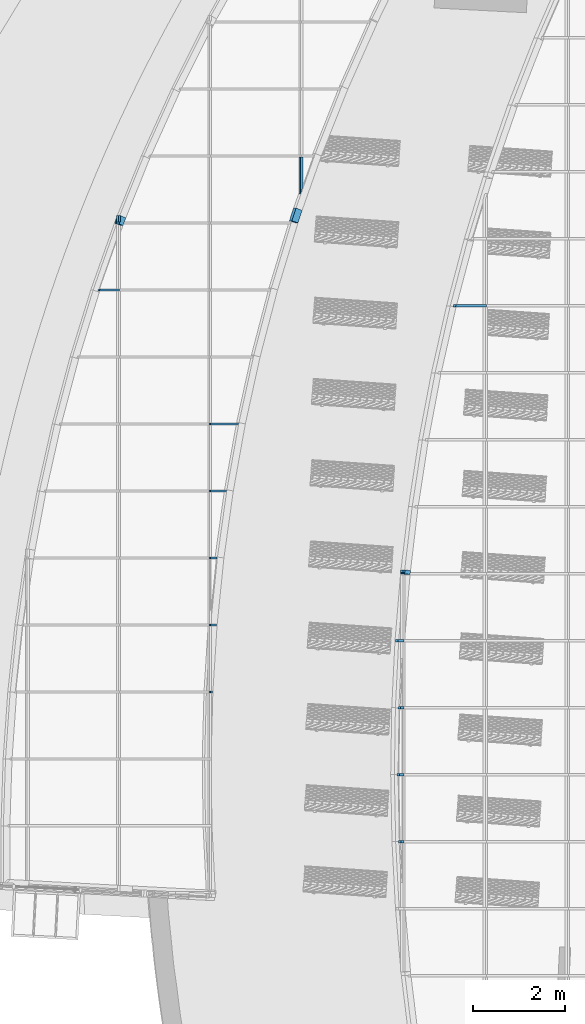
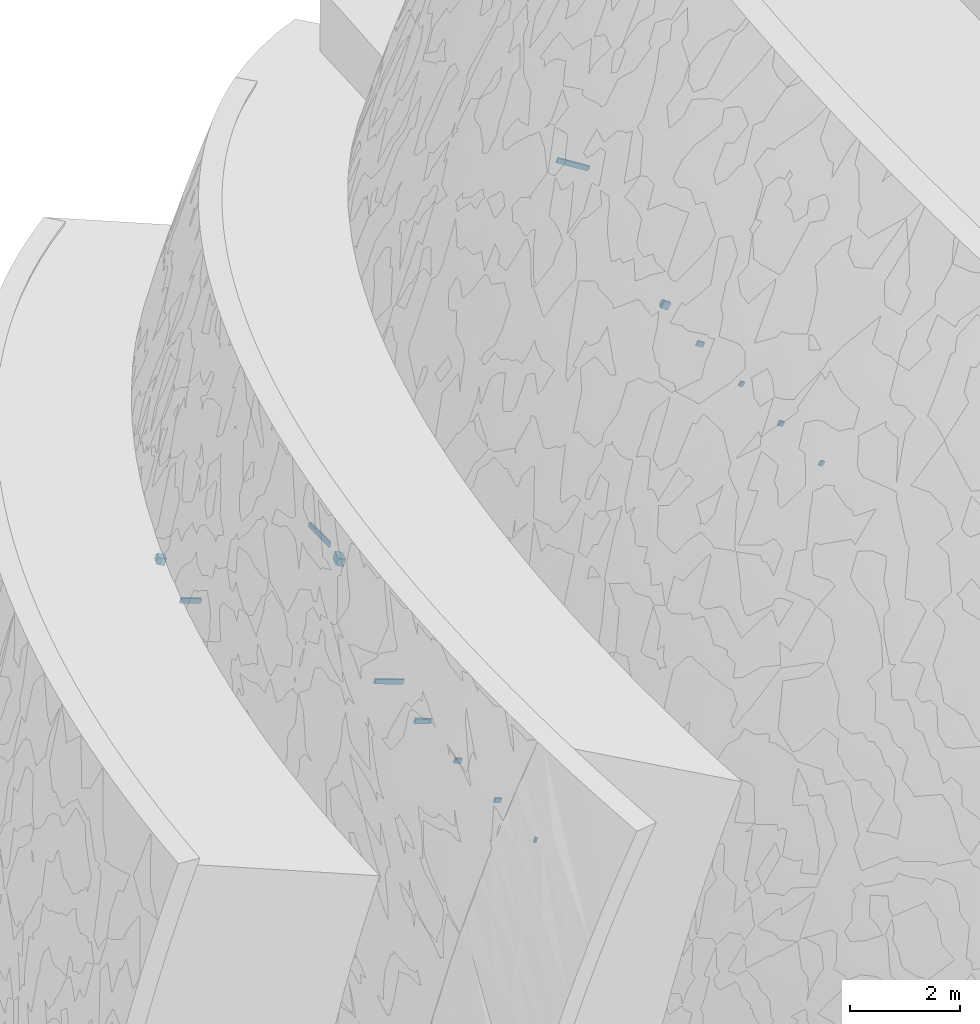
# One storey, part 28 of 82: 18 members, 2 elements without a shape of their own.
"""IFC2X3 building model written with IfcOpenShell, lengths in millimetres."""

from ifc_helpers import new_model, entity, si_unit, converted_unit, derived_unit, direction, frame, frame_2d, origin, origin_2d_with_axis, place, context, subcontext, project, spatial, polyline, rectangle, extrude, clip, halfspace, bounded_halfspace, source, transform, mapped, material, type_object, type_shapes, element, aggregate, save


model = new_model("IFC2X3")

# Units and contexts
model_context = context("Model", 3, precision=0.01, world=origin(), true_north=direction((6.12303176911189e-17, 1.0)))
body_context = subcontext(model_context, "Body", "Model", "MODEL_VIEW")
ifc_project = project(units=[si_unit("LENGTHUNIT", "METRE", prefix="MILLI"), si_unit("AREAUNIT", "SQUARE_METRE"), si_unit("VOLUMEUNIT", "CUBIC_METRE"), converted_unit("PLANEANGLEUNIT", "DEGREE", entity("IfcRatioMeasure", 0.0174532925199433), si_unit("PLANEANGLEUNIT", "RADIAN"), dimensions=[0, 0, 0, 0, 0, 0, 0]), si_unit("MASSUNIT", "GRAM", prefix="KILO"), derived_unit("MASSDENSITYUNIT", [(si_unit("MASSUNIT", "GRAM", prefix="KILO"), 1), (si_unit("LENGTHUNIT", "METRE"), -3)]), si_unit("TIMEUNIT", "SECOND"), si_unit("FREQUENCYUNIT", "HERTZ"), si_unit("THERMODYNAMICTEMPERATUREUNIT", "DEGREE_CELSIUS"), derived_unit("THERMALTRANSMITTANCEUNIT", [(si_unit("MASSUNIT", "GRAM", prefix="KILO"), 1), (si_unit("THERMODYNAMICTEMPERATUREUNIT", "KELVIN"), -1), (si_unit("TIMEUNIT", "SECOND"), -3)]), derived_unit("VOLUMETRICFLOWRATEUNIT", [(si_unit("LENGTHUNIT", "METRE"), 3), (si_unit("TIMEUNIT", "SECOND"), -1)]), si_unit("ELECTRICCURRENTUNIT", "AMPERE"), si_unit("ELECTRICVOLTAGEUNIT", "VOLT"), si_unit("POWERUNIT", "WATT"), si_unit("FORCEUNIT", "NEWTON", prefix="KILO"), si_unit("ILLUMINANCEUNIT", "LUX"), si_unit("LUMINOUSFLUXUNIT", "LUMEN"), si_unit("LUMINOUSINTENSITYUNIT", "CANDELA"), derived_unit("USERDEFINED", [(si_unit("MASSUNIT", "GRAM", prefix="KILO"), -1), (si_unit("LENGTHUNIT", "METRE"), -2), (si_unit("TIMEUNIT", "SECOND"), 3), (si_unit("LUMINOUSFLUXUNIT", "LUMEN"), 1)]), derived_unit("LINEARVELOCITYUNIT", [(si_unit("LENGTHUNIT", "METRE"), 1), (si_unit("TIMEUNIT", "SECOND"), -1)]), si_unit("PRESSUREUNIT", "PASCAL"), derived_unit("USERDEFINED", [(si_unit("LENGTHUNIT", "METRE"), -2), (si_unit("MASSUNIT", "GRAM", prefix="KILO"), 1), (si_unit("TIMEUNIT", "SECOND"), -2)])], contexts=[model_context])

# Site, building, storey
site_placement = place(None, origin())
site = spatial("IfcSite", under=ifc_project, at=site_placement, Name="表面", CompositionType="ELEMENT")
building_placement = place(site_placement, origin())
building = spatial("IfcBuilding", under=site, at=building_placement, CompositionType="ELEMENT")
storey_placement = place(building_placement, origin())
storey = spatial("IfcBuildingStorey", under=building, at=storey_placement, Name="1F", CompositionType="ELEMENT", Elevation=0.0)

# Curtain wall, members
curtain_wall_type = type_object("IfcCurtainWallType", Name="幕墙系统:1450 x 2100mm", PredefinedType="NOTDEFINED")
curtain_wall_1_placement = place(storey_placement, origin())
curtain_wall_1 = element("IfcCurtainWall", 1, at=curtain_wall_1_placement, inside=storey, type_object=curtain_wall_type, Name="幕墙系统:1450 x 2100mm", ObjectType="幕墙系统:1450 x 2100mm")
ifc_material_1 = material(Name="木质 - 木材")
member_type_1 = type_object("IfcMemberType", Name="200 x 150mm", PredefinedType="MEMBER")
shared_shape_1 = source(origin(), body_context, "Body", "SweptSolid", [
    extrude(rectangle(XDim=150.0, YDim=150.0, at=origin_2d_with_axis()), frame((-75.0, 0.0, -85.9248183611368), z_axis=(0.0, 0.0, 1.0), x_axis=(0.0, -1.0, 0.0)), (0.0, 0.0, 1.0), 85.9248183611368),
])
type_shapes(member_type_1, [shared_shape_1])
placement = place(building_placement, frame((0.0, 0.0, 9000.0)))
member_1_placement = place(placement, frame((-30604.5056245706, -13303.588327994, 9820.01452635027), z_axis=(0.10087101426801, 0.992900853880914, -0.0630312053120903), x_axis=(-0.842027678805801, 0.118944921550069, 0.526157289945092)))
member_1 = element("IfcMember", 2, at=member_1_placement, type_object=member_type_1, material=ifc_material_1, Name="矩形竖梃:200 x 150mm", ObjectType="200 x 150mm", context=body_context, shape_type="MappedRepresentation", body=[
    mapped(shared_shape_1, transform((0.0, 0.0, 0.0), scale=1.0)),
])
ifc_material_2 = material(Name="金属 - 铝")
member_type_2 = type_object("IfcMemberType", Name="50 x 100mm", PredefinedType="MEMBER")
shared_shape_2 = source(origin(), body_context, "Body", "SweptSolid", [
    extrude(rectangle(XDim=100.0, YDim=50.0, at=origin_2d_with_axis()), frame((0.0, 0.0, -60.3148255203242), z_axis=(0.0, 0.0, 1.0), x_axis=(0.0, -1.0, 0.0)), (0.0, 0.0, 1.0), 60.3148255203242),
])
type_shapes(member_type_2, [shared_shape_2])
member_2_placement = place(placement, frame((-30604.5056245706, -13303.588327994, 9820.01452635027), z_axis=(0.0, 1.0, 0.0), x_axis=(-0.848048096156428, 0.0, 0.529919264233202)))
member_2 = element("IfcMember", 3, at=member_2_placement, type_object=member_type_2, material=ifc_material_2, Name="矩形竖梃:50 x 100mm", ObjectType="50 x 100mm", context=body_context, shape_type="MappedRepresentation", body=[
    mapped(shared_shape_2, transform((0.0, 0.0, 0.0), scale=1.0)),
])
member_type_3 = type_object("IfcMemberType", Name="50 x 100mm", PredefinedType="MEMBER")
shared_shape_3 = source(origin(), body_context, "Body", "Clipping", [
    clip(extrude(rectangle(XDim=100.0, YDim=50.0, at=origin_2d_with_axis()), frame((0.0, 0.0, -935.96048896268), z_axis=(0.0, 0.0, 1.0), x_axis=(0.0, -1.0, 0.0)), (0.0, 0.0, 1.0), 786.629228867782), halfspace(frame((-1405.324131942, 75.0, -595.590746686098), z_axis=(-0.29783912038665, 0.0, 0.954616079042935), x_axis=(0.954616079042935, 0.0, 0.29783912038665)), False)),
])
type_shapes(member_type_3, [shared_shape_3])
member_3_placement = place(placement, frame((-29617.3441333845, -7588.90315351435, 9203.16756512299), z_axis=(-0.848048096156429, 0.0, 0.529919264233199), x_axis=(0.0, -1.0, 0.0)))
member_3 = element("IfcMember", 4, at=member_3_placement, type_object=member_type_3, material=ifc_material_2, Name="矩形竖梃:50 x 100mm", ObjectType="50 x 100mm", context=body_context, shape_type="MappedRepresentation", body=[
    mapped(shared_shape_3, transform((0.0, 0.0, 0.0), scale=1.0)),
])
member_type_4 = type_object("IfcMemberType", Name="50 x 100mm", PredefinedType="MEMBER")
shared_shape_4 = source(origin(), body_context, "Body", "SweptSolid", [
    extrude(rectangle(XDim=100.0, YDim=50.0, at=origin_2d_with_axis()), frame((0.0, 0.0, -152.69416248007), z_axis=(0.0, 0.0, 1.0), x_axis=(0.0, -1.0, 0.0)), (0.0, 0.0, 1.0), 152.69416248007),
])
type_shapes(member_type_4, [shared_shape_4])
member_4_placement = place(placement, frame((-30733.997618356, -14838.9031535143, 9900.93010458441), z_axis=(-0.848048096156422, 0.0, 0.529919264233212), x_axis=(0.0, -1.0, 0.0)))
member_4 = element("IfcMember", 5, at=member_4_placement, type_object=member_type_4, material=ifc_material_2, Name="矩形竖梃:50 x 100mm", ObjectType="50 x 100mm", context=body_context, shape_type="MappedRepresentation", body=[
    mapped(shared_shape_4, transform((0.0, 0.0, 0.0), scale=1.0)),
])
member_type_5 = type_object("IfcMemberType", Name="50 x 100mm", PredefinedType="MEMBER")
shared_shape_5 = source(origin(), body_context, "Body", "Clipping", [
    clip(clip(extrude(rectangle(XDim=100.0, YDim=50.0, at=origin_2d_with_axis()), frame((0.0, 0.0, -236.611637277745), z_axis=(0.0, 0.0, 1.0), x_axis=(0.0, -1.0, 0.0)), (0.0, 0.0, 1.0), 87.0322261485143), bounded_halfspace(frame((-1441.33338382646, 75.0, -233.666898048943), z_axis=(-0.0577774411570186, 0.0, 0.998329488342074), x_axis=(0.998329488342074, 0.0, 0.0577774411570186)), False, frame((0.0, 0.0, -236.611637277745), z_axis=(0.0, 0.0, 1.0), x_axis=(0.0, -1.0, 0.0)), polyline([(-50.0, 5.66818631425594), (-50.0, -25.0), (50.0, -25.0), (50.0, 5.66818631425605), (-50.0, 5.66818631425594)]))), bounded_halfspace(frame((5.66818631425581, 75.0, -149.922954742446), z_axis=(-0.0177680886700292, 0.0, 0.999842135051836), x_axis=(0.999842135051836, 0.0, 0.0177680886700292)), False, frame((0.0, 0.0, -236.611637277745), z_axis=(0.0, 0.0, 1.0), x_axis=(0.0, -1.0, 0.0)), polyline([(-50.0, 25.0), (-50.0, 5.66818631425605), (50.0, 5.66818631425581), (50.0, 25.0), (-50.0, 25.0)]))),
])
type_shapes(member_type_5, [shared_shape_5])
member_5_placement = place(placement, frame((-30805.1636730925, -16288.9031535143, 9945.39959108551), z_axis=(-0.848048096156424, 0.0, 0.529919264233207), x_axis=(0.0, -1.0, 0.0)))
member_5 = element("IfcMember", 6, at=member_5_placement, type_object=member_type_5, material=ifc_material_2, Name="矩形竖梃:50 x 100mm", ObjectType="50 x 100mm", context=body_context, shape_type="MappedRepresentation", body=[
    mapped(shared_shape_5, transform((0.0, 0.0, 0.0), scale=1.0)),
])
member_type_6 = type_object("IfcMemberType", Name="50 x 100mm", PredefinedType="MEMBER")
shared_shape_6 = source(origin(), body_context, "Body", "Clipping", [
    clip(clip(extrude(rectangle(XDim=100.0, YDim=50.0, at=origin_2d_with_axis()), frame((0.0, 0.0, -262.379433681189), z_axis=(0.0, 0.0, 1.0), x_axis=(0.0, -1.0, 0.0)), (0.0, 0.0, 1.0), 112.349785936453), bounded_halfspace(frame((-0.335619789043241, 75.0, -150.029647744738), z_axis=(0.0222412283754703, 0.0, 0.999752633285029), x_axis=(0.999752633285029, 0.0, -0.0222412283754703)), False, frame((0.0, 0.0, -262.379433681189), z_axis=(0.0, 0.0, 1.0), x_axis=(0.0, -1.0, 0.0)), polyline([(-50.0, 25.0), (-50.0, -0.335619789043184), (50.0, -0.335619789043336), (50.0, 25.0), (-50.0, 25.0)]))), bounded_halfspace(frame((-1447.3347866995, 75.0, -175.744116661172), z_axis=(-0.0177680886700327, 0.0, 0.999842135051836), x_axis=(0.999842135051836, 0.0, 0.0177680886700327)), False, frame((0.0, 0.0, -262.379433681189), z_axis=(0.0, 0.0, 1.0), x_axis=(0.0, -1.0, 0.0)), polyline([(-50.0, -0.335619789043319), (-50.0, -25.0), (50.0, -25.0), (50.0, -0.335619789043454), (-50.0, -0.335619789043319)]))),
])
type_shapes(member_type_6, [shared_shape_6])
member_6_placement = place(placement, frame((-30827.0160037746, -17738.9031535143, 9959.05444279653), z_axis=(-0.848048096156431, 0.0, 0.529919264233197), x_axis=(0.0, -1.0, 0.0)))
member_6 = element("IfcMember", 7, at=member_6_placement, type_object=member_type_6, material=ifc_material_2, Name="矩形竖梃:50 x 100mm", ObjectType="50 x 100mm", context=body_context, shape_type="MappedRepresentation", body=[
    mapped(shared_shape_6, transform((0.0, 0.0, 0.0), scale=1.0)),
])
member_type_7 = type_object("IfcMemberType", Name="50 x 100mm", PredefinedType="MEMBER")
shared_shape_7 = source(origin(), body_context, "Body", "Clipping", [
    clip(clip(extrude(rectangle(XDim=100.0, YDim=50.0, at=origin_2d_with_axis()), frame((0.0, 0.0, -230.12167304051), z_axis=(0.0, 0.0, 1.0), x_axis=(0.0, -1.0, 0.0)), (0.0, 0.0, 1.0), 80.6407271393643), bounded_halfspace(frame((-6.33942767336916, 75.0, -149.896082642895), z_axis=(0.0622505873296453, 0.0, 0.998060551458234), x_axis=(0.998060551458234, 0.0, -0.0622505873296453)), False, frame((0.0, 0.0, -230.12167304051), z_axis=(0.0, 0.0, 1.0), x_axis=(0.0, -1.0, 0.0)), polyline([(-50.0, 25.0), (-50.0, -6.33942767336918), (50.0, -6.33942767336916), (50.0, 25.0), (-50.0, 25.0)]))), bounded_halfspace(frame((-1453.33618425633, 75.0, -117.705134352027), z_axis=(0.0222412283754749, 0.0, 0.999752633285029), x_axis=(0.999752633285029, 0.0, -0.0222412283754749)), False, frame((0.0, 0.0, -230.12167304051), z_axis=(0.0, 0.0, 1.0), x_axis=(0.0, -1.0, 0.0)), polyline([(-50.0, -6.33942767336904), (-50.0, -25.0), (50.0, -25.0), (50.0, -6.33942767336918), (-50.0, -6.33942767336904)]))),
])
type_shapes(member_type_7, [shared_shape_7])
member_7_placement = place(placement, frame((-30799.659871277, -19188.9031535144, 9941.96043401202), z_axis=(-0.848048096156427, 0.0, 0.529919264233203), x_axis=(0.0, -1.0, 0.0)))
member_7 = element("IfcMember", 8, at=member_7_placement, type_object=member_type_7, material=ifc_material_2, Name="矩形竖梃:50 x 100mm", ObjectType="50 x 100mm", context=body_context, shape_type="MappedRepresentation", body=[
    mapped(shared_shape_7, transform((0.0, 0.0, 0.0), scale=1.0)),
])
aggregate(curtain_wall_1, [member_1, member_2, member_3, member_4, member_5, member_6, member_7])

curtain_wall_2_placement = place(storey_placement, origin())
curtain_wall_2 = element("IfcCurtainWall", 9, at=curtain_wall_2_placement, inside=storey, type_object=curtain_wall_type, Name="幕墙系统:1450 x 2100mm", ObjectType="幕墙系统:1450 x 2100mm")
member_type_8 = type_object("IfcMemberType", Name="200 x 150mm", PredefinedType="MEMBER")
shared_shape_8 = source(origin(), body_context, "Body", "Clipping", [
    clip(clip(extrude(rectangle(XDim=150.0, YDim=150.0, at=origin_2d_with_axis()), frame((-75.0, 0.0, -289.696941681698), z_axis=(0.0, 0.0, 1.0), x_axis=(0.0, -1.0, 0.0)), (0.0, 0.0, 1.0), 291.576476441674), halfspace(frame((0.0, 304.8, -288.092724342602), z_axis=(0.0106941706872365, 0.0, -0.999942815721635), x_axis=(0.999942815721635, 0.0, 0.0106941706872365)), False)), halfspace(frame((0.0, 304.799999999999, 0.0), z_axis=(0.0125292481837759, 0.0, 0.999921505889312), x_axis=(0.999921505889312, 0.0, -0.0125292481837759)), False)),
])
type_shapes(member_type_8, [shared_shape_8])
member_8_placement = place(placement, frame((-32899.731961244, -5796.8767198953, 294.791419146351), z_axis=(-0.311759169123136, -0.9433612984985, 0.113471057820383), x_axis=(0.886469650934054, -0.3317671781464, -0.322648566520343)))
member_8 = element("IfcMember", 10, at=member_8_placement, type_object=member_type_8, material=ifc_material_1, Name="矩形竖梃:200 x 150mm", ObjectType="200 x 150mm", context=body_context, shape_type="MappedRepresentation", body=[
    mapped(shared_shape_8, transform((0.0, 0.0, 0.0), scale=1.0)),
])
member_type_9 = type_object("IfcMemberType", Name="200 x 150mm", PredefinedType="MEMBER")
shared_shape_9 = source(origin(), body_context, "Body", "SweptSolid", [
    extrude(rectangle(XDim=150.0, YDim=150.0, at=origin_2d_with_axis()), frame((-75.0, 0.0, -179.980321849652), z_axis=(0.0, 0.0, 1.0), x_axis=(0.0, -1.0, 0.0)), (0.0, 0.0, 1.0), 179.980321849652),
])
type_shapes(member_type_9, [shared_shape_9])
member_9_placement = place(placement, frame((-36756.6254201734, -5629.99032726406, 1698.58583493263), z_axis=(0.351865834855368, 0.927247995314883, -0.128068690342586), x_axis=(-0.871328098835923, 0.374447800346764, 0.317137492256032)))
member_9 = element("IfcMember", 11, at=member_9_placement, type_object=member_type_9, material=ifc_material_1, Name="矩形竖梃:200 x 150mm", ObjectType="200 x 150mm", context=body_context, shape_type="MappedRepresentation", body=[
    mapped(shared_shape_9, transform((0.0, 0.0, 0.0), scale=1.0)),
])
member_type_10 = type_object("IfcMemberType", Name="50 x 100mm", PredefinedType="MEMBER")
shared_shape_10 = source(origin(), body_context, "Body", "Clipping", [
    clip(extrude(rectangle(XDim=100.0, YDim=50.0, at=origin_2d_with_axis()), frame((0.0, 0.0, -793.433062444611), z_axis=(0.0, 0.0, 1.0), x_axis=(0.0, -1.0, 0.0)), (0.0, 0.0, 1.0), 793.433062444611), halfspace(frame((140.971968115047, 75.0, -1101.94604020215), z_axis=(-0.936049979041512, 0.0, -0.35186707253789), x_axis=(-0.35186707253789, 0.0, 0.936049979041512)), False)),
])
type_shapes(member_type_10, [shared_shape_10])
member_10_placement = place(placement, frame((-32809.9164128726, -4371.8767198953, 262.10123296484), z_axis=(0.0, 1.0, 0.0), x_axis=(-0.93969262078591, 0.0, 0.342020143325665)))
member_10 = element("IfcMember", 12, at=member_10_placement, type_object=member_type_10, material=ifc_material_2, Name="矩形竖梃:50 x 100mm", ObjectType="50 x 100mm", context=body_context, shape_type="MappedRepresentation", body=[
    mapped(shared_shape_10, transform((0.0, 0.0, 0.0), scale=1.0)),
])
member_type_11 = type_object("IfcMemberType", Name="50 x 100mm", PredefinedType="MEMBER")
shared_shape_11 = source(origin(), body_context, "Body", "SweptSolid", [
    extrude(rectangle(XDim=100.0, YDim=50.0, at=origin_2d_with_axis()), frame((0.0, 0.0, -141.886392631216), z_axis=(0.0, 0.0, 1.0), x_axis=(0.0, -1.0, 0.0)), (0.0, 0.0, 1.0), 141.886392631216),
])
type_shapes(member_type_11, [shared_shape_11])
member_11_placement = place(placement, frame((-36756.6254201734, -5629.99032726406, 1698.58583493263), z_axis=(0.0, 1.0, 0.0), x_axis=(-0.93969262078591, 0.0, 0.342020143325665)))
member_11 = element("IfcMember", 13, at=member_11_placement, type_object=member_type_11, material=ifc_material_2, Name="矩形竖梃:50 x 100mm", ObjectType="50 x 100mm", context=body_context, shape_type="MappedRepresentation", body=[
    mapped(shared_shape_11, transform((0.0, 0.0, 0.0), scale=1.0)),
])
member_type_12 = type_object("IfcMemberType", Name="50 x 100mm", PredefinedType="MEMBER")
shared_shape_12 = source(origin(), body_context, "Body", "SweptSolid", [
    extrude(rectangle(XDim=100.0, YDim=50.0, at=origin_2d_with_axis()), frame((0.0, 0.0, -67.3932356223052), z_axis=(0.0, 0.0, 1.0), x_axis=(0.0, -1.0, 0.0)), (0.0, 0.0, 1.0), 67.3932356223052),
])
type_shapes(member_type_12, [shared_shape_12])
member_12_placement = place(placement, frame((-36819.9543463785, -5796.87671989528, 1721.63567903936), z_axis=(-0.939692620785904, 0.0, 0.342020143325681), x_axis=(0.0, -1.0, 0.0)))
member_12 = element("IfcMember", 14, at=member_12_placement, type_object=member_type_12, material=ifc_material_2, Name="矩形竖梃:50 x 100mm", ObjectType="50 x 100mm", context=body_context, shape_type="MappedRepresentation", body=[
    mapped(shared_shape_12, transform((0.0, 0.0, 0.0), scale=1.0)),
])
member_type_13 = type_object("IfcMemberType", Name="50 x 100mm", PredefinedType="MEMBER")
shared_shape_13 = source(origin(), body_context, "Body", "Clipping", [
    clip(extrude(rectangle(XDim=100.0, YDim=50.0, at=origin_2d_with_axis()), frame((0.0, 0.0, -613.293458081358), z_axis=(0.0, 0.0, 1.0), x_axis=(0.0, -1.0, 0.0)), (0.0, 0.0, 1.0), 462.427222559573), halfspace(frame((-1397.14902091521, 75.0, -686.281040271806), z_axis=(-0.352339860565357, 0.0, 0.935872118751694), x_axis=(0.935872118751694, 0.0, 0.352339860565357)), False)),
])
type_shapes(member_type_13, [shared_shape_13])
member_13_placement = place(placement, frame((-37332.9327571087, -7246.8767198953, 1908.34455136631), z_axis=(-0.93969262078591, 0.0, 0.342020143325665), x_axis=(0.0, -1.0, 0.0)))
member_13 = element("IfcMember", 15, at=member_13_placement, type_object=member_type_13, material=ifc_material_2, Name="矩形竖梃:50 x 100mm", ObjectType="50 x 100mm", context=body_context, shape_type="MappedRepresentation", body=[
    mapped(shared_shape_13, transform((0.0, 0.0, 0.0), scale=1.0)),
])
member_type_14 = type_object("IfcMemberType", Name="50 x 100mm", PredefinedType="MEMBER")
shared_shape_14 = source(origin(), body_context, "Body", "Clipping", [
    clip(extrude(rectangle(XDim=100.0, YDim=50.0, at=origin_2d_with_axis()), frame((0.0, 0.0, -644.558380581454), z_axis=(0.0, 0.0, 1.0), x_axis=(0.0, -1.0, 0.0)), (0.0, 0.0, 1.0), 644.558380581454), halfspace(frame((1421.84497297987, 75.0, -368.071136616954), z_axis=(0.187700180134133, 0.0, -0.982226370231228), x_axis=(-0.982226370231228, 0.0, -0.187700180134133)), False)),
])
type_shapes(member_type_14, [shared_shape_14])
member_14_placement = place(placement, frame((-34783.270916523, -10146.8767198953, 980.343533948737), z_axis=(-0.93969262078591, 0.0, 0.342020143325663), x_axis=(0.0, -1.0, 0.0)))
member_14 = element("IfcMember", 16, at=member_14_placement, type_object=member_type_14, material=ifc_material_2, Name="矩形竖梃:50 x 100mm", ObjectType="50 x 100mm", context=body_context, shape_type="MappedRepresentation", body=[
    mapped(shared_shape_14, transform((0.0, 0.0, 0.0), scale=1.0)),
])
member_type_15 = type_object("IfcMemberType", Name="50 x 100mm", PredefinedType="MEMBER")
shared_shape_15 = source(origin(), body_context, "Body", "Clipping", [
    clip(extrude(rectangle(XDim=100.000123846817, YDim=50.1573829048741, at=frame_2d((0.0, -0.0786914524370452), x_axis=(0.999998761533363, 0.00157382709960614))), frame((0.0, 0.0, -367.498296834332), z_axis=(0.0, 0.0, 1.0), x_axis=(0.0, -1.0, 0.0)), (0.0, 0.0, 1.0), 367.498296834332), halfspace(frame((1427.86108070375, 75.0, -150.668567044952), z_axis=(0.14759279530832, 0.0, -0.9890482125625), x_axis=(-0.9890482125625, 0.0, -0.14759279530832)), False)),
])
type_shapes(member_type_15, [shared_shape_15])
member_15_placement = place(placement, frame((-34783.270916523, -11596.8767198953, 980.343533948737), z_axis=(-0.939692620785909, 0.0, 0.342020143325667), x_axis=(0.0, -1.0, 0.0)))
member_15 = element("IfcMember", 17, at=member_15_placement, type_object=member_type_15, material=ifc_material_2, Name="矩形竖梃:50 x 100mm", ObjectType="50 x 100mm", context=body_context, shape_type="MappedRepresentation", body=[
    mapped(shared_shape_15, transform((0.0, 0.0, 0.0), scale=1.0)),
])
member_type_16 = type_object("IfcMemberType", Name="50 x 100mm", PredefinedType="MEMBER")
shared_shape_16 = source(origin(), body_context, "Body", "Clipping", [
    clip(clip(extrude(rectangle(XDim=100.0, YDim=50.0, at=origin_2d_with_axis()), frame((0.0, 0.0, -151.095517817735), z_axis=(0.0, 0.0, 1.0), x_axis=(0.0, -1.0, 0.0)), (0.0, 0.0, 1.0), 151.095517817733), bounded_halfspace(frame((1433.87717088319, 75.0, 6.86739162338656), z_axis=(0.10748552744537, 0.0, -0.994206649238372), x_axis=(-0.994206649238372, 0.0, -0.10748552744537)), False, frame((0.0, 0.0, -151.095517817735), z_axis=(0.0, 0.0, 1.0), x_axis=(0.0, -1.0, 0.0)), polyline([(-50.0, 25.0), (50.0, 25.0), (50.0, -19.1386981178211), (-50.0, -19.1386981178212), (-50.0, 25.0)]))), bounded_halfspace(frame((-19.1386981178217, 75.0, -150.220852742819), z_axis=(0.14759279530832, 0.0, -0.9890482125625), x_axis=(-0.9890482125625, 0.0, -0.14759279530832)), False, frame((0.0, 0.0, -151.095517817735), z_axis=(0.0, 0.0, 1.0), x_axis=(0.0, -1.0, 0.0)), polyline([(50.0, -19.1386981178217), (50.0, -25.0), (-50.0, -25.0), (-50.0, -19.1386981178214), (50.0, -19.1386981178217)]))),
])
type_shapes(member_type_16, [shared_shape_16])
member_16_placement = place(placement, frame((-34783.270916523, -13046.8767198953, 980.343533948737), z_axis=(-0.939692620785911, 0.0, 0.342020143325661), x_axis=(0.0, -1.0, 0.0)))
member_16 = element("IfcMember", 18, at=member_16_placement, type_object=member_type_16, material=ifc_material_2, Name="矩形竖梃:50 x 100mm", ObjectType="50 x 100mm", context=body_context, shape_type="MappedRepresentation", body=[
    mapped(shared_shape_16, transform((0.0, 0.0, 0.0), scale=1.0)),
])
member_type_17 = type_object("IfcMemberType", Name="50 x 100mm", PredefinedType="MEMBER")
shared_shape_17 = source(origin(), body_context, "Body", "SweptSolid", [
    extrude(rectangle(XDim=100.0, YDim=50.0, at=origin_2d_with_axis()), frame((0.0, 0.0, -142.263605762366), z_axis=(0.0, 0.0, 1.0), x_axis=(0.0, -1.0, 0.0)), (0.0, 0.0, 1.0), 142.263605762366),
])
type_shapes(member_type_17, [shared_shape_17])
member_17_placement = place(placement, frame((-34783.270916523, -14496.8767198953, 980.343533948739), z_axis=(-0.939692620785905, 0.0, 0.342020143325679), x_axis=(0.0, -1.0, 0.0)))
member_17 = element("IfcMember", 19, at=member_17_placement, type_object=member_type_17, material=ifc_material_2, Name="矩形竖梃:50 x 100mm", ObjectType="50 x 100mm", context=body_context, shape_type="MappedRepresentation", body=[
    mapped(shared_shape_17, transform((0.0, 0.0, 0.0), scale=1.0)),
])
member_type_18 = type_object("IfcMemberType", Name="50 x 100mm", PredefinedType="MEMBER")
shared_shape_18 = source(origin(), body_context, "Body", "SweptSolid", [
    extrude(rectangle(XDim=100.0, YDim=50.0, at=origin_2d_with_axis()), frame((0.0, 0.0, -44.3420273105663), z_axis=(0.0, 0.0, 1.0), x_axis=(0.0, -1.0, 0.0)), (0.0, 0.0, 1.0), 44.3420273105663),
])
type_shapes(member_type_18, [shared_shape_18])
member_18_placement = place(placement, frame((-34783.270916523, -15946.8767198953, 980.343533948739), z_axis=(-0.939692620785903, 0.0, 0.342020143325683), x_axis=(0.0, -1.0, 0.0)))
member_18 = element("IfcMember", 20, at=member_18_placement, type_object=member_type_18, material=ifc_material_2, Name="矩形竖梃:50 x 100mm", ObjectType="50 x 100mm", context=body_context, shape_type="MappedRepresentation", body=[
    mapped(shared_shape_18, transform((0.0, 0.0, 0.0), scale=1.0)),
])
aggregate(curtain_wall_2, [member_8, member_9, member_10, member_11, member_12, member_13, member_14, member_15, member_16, member_17, member_18])

save(model, "model.ifc")
